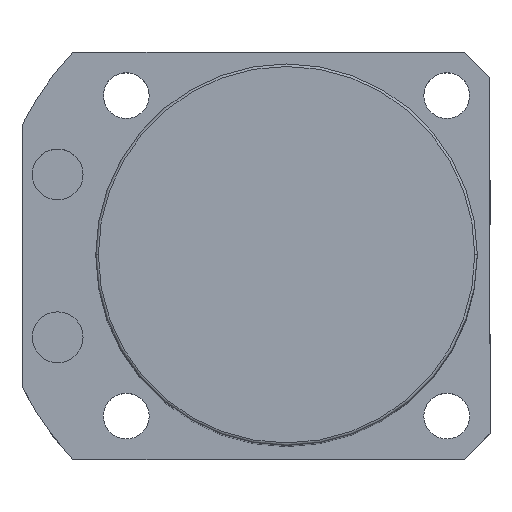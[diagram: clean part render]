
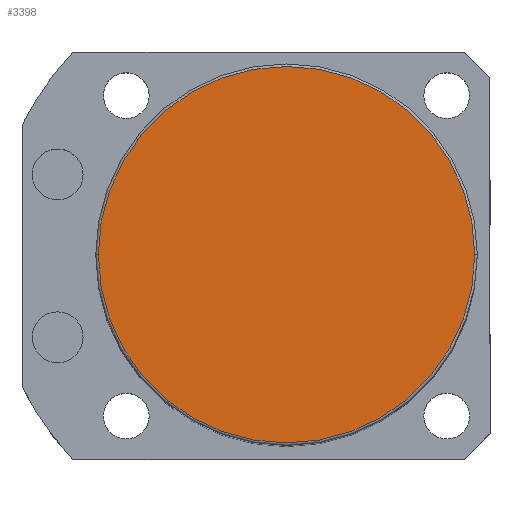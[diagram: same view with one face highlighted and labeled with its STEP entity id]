
A CAD part, top view. The second image highlights one B-rep face of the part: STEP entity #3398.
In plain terms, the highlighted planar face has unit normal (0, 0, 1).
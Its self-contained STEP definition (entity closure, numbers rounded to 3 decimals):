
#642 = FACE_OUTER_BOUND ( 'NONE', #4062, .T. ) ;
#646 = PLANE ( 'NONE',  #1584 ) ;
#1037 = CARTESIAN_POINT ( 'NONE',  ( -37., 0., 150.5 ) ) ;
#1584 = AXIS2_PLACEMENT_3D ( 'NONE', #4703, #6210, #5260 ) ;
#1592 = EDGE_CURVE ( 'NONE', #4837, #6195, #4748, .T. ) ;
#1841 = DIRECTION ( 'NONE',  ( 0., 0., 1. ) ) ;
#1873 = EDGE_CURVE ( 'NONE', #6195, #4837, #4440, .T. ) ;
#2914 = CARTESIAN_POINT ( 'NONE',  ( 0., 0., 150.5 ) ) ;
#3350 = AXIS2_PLACEMENT_3D ( 'NONE', #2914, #1841, #5974 ) ;
#3398 = ADVANCED_FACE ( 'NONE', ( #642 ), #646, .T. ) ;
#3846 = DIRECTION ( 'NONE',  ( 0., 0., 1. ) ) ;
#3870 = CARTESIAN_POINT ( 'NONE',  ( 0., 0., 150.5 ) ) ;
#4062 = EDGE_LOOP ( 'NONE', ( #5109, #4863 ) ) ;
#4092 = AXIS2_PLACEMENT_3D ( 'NONE', #3870, #3846, #4400 ) ;
#4400 = DIRECTION ( 'NONE',  ( 1., 0., 0. ) ) ;
#4440 = CIRCLE ( 'NONE', #4092, 37. ) ;
#4703 = CARTESIAN_POINT ( 'NONE',  ( 0., 0., 150.5 ) ) ;
#4748 = CIRCLE ( 'NONE', #3350, 37. ) ;
#4837 = VERTEX_POINT ( 'NONE', #1037 ) ;
#4863 = ORIENTED_EDGE ( 'NONE', *, *, #1592, .T. ) ;
#5109 = ORIENTED_EDGE ( 'NONE', *, *, #1873, .T. ) ;
#5260 = DIRECTION ( 'NONE',  ( 1., 0., 0. ) ) ;
#5540 = CARTESIAN_POINT ( 'NONE',  ( 37., 0., 150.5 ) ) ;
#5974 = DIRECTION ( 'NONE',  ( 1., 0., 0. ) ) ;
#6195 = VERTEX_POINT ( 'NONE', #5540 ) ;
#6210 = DIRECTION ( 'NONE',  ( 0., 0., 1. ) ) ;
